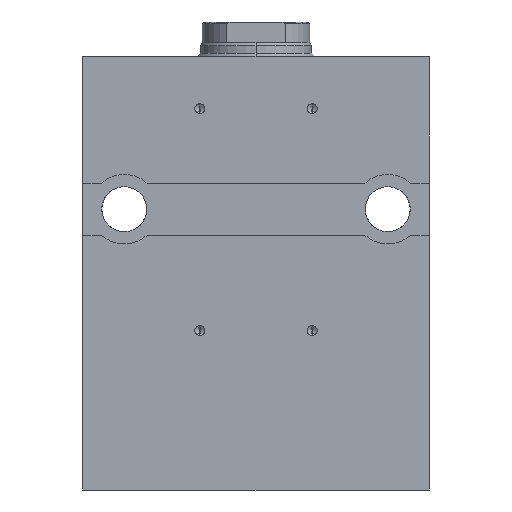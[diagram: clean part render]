
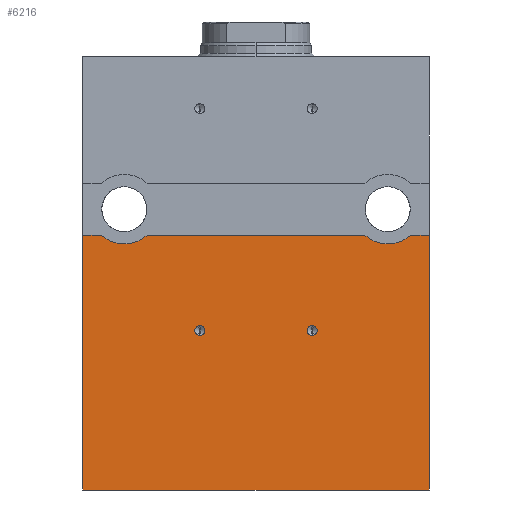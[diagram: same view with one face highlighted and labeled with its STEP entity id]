
A CAD part, left-side view. The second image highlights one B-rep face of the part: STEP entity #6216.
In plain terms, the highlighted planar face has unit normal (-1, 0, 0).
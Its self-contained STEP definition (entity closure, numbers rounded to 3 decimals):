
#13 = DIRECTION ( 'NONE',  ( 0., 0., 1. ) ) ;
#43 = AXIS2_PLACEMENT_3D ( 'NONE', #2816, #1256, #2257 ) ;
#53 = DIRECTION ( 'NONE',  ( 0., -1., 0. ) ) ;
#76 = PLANE ( 'NONE',  #436 ) ;
#84 = CARTESIAN_POINT ( 'NONE',  ( -37.5, 50., -61.5 ) ) ;
#121 = DIRECTION ( 'NONE',  ( -1., 0., 0. ) ) ;
#143 = VERTEX_POINT ( 'NONE', #2180 ) ;
#184 = CARTESIAN_POINT ( 'NONE',  ( -37.5, -50., -135. ) ) ;
#271 = ORIENTED_EDGE ( 'NONE', *, *, #1788, .T. ) ;
#362 = VECTOR ( 'NONE', #4099, 1000. ) ;
#385 = VECTOR ( 'NONE', #1639, 1000. ) ;
#436 = AXIS2_PLACEMENT_3D ( 'NONE', #4231, #2210, #4298 ) ;
#521 = AXIS2_PLACEMENT_3D ( 'NONE', #3142, #5266, #13 ) ;
#557 = DIRECTION ( 'NONE',  ( -1., 0., 0. ) ) ;
#565 = LINE ( 'NONE', #2677, #4065 ) ;
#599 = CARTESIAN_POINT ( 'NONE',  ( -37.5, 16.2, -89. ) ) ;
#629 = DIRECTION ( 'NONE',  ( 0., 0., 1. ) ) ;
#685 = ORIENTED_EDGE ( 'NONE', *, *, #1133, .T. ) ;
#708 = VERTEX_POINT ( 'NONE', #1517 ) ;
#720 = ORIENTED_EDGE ( 'NONE', *, *, #2670, .T. ) ;
#729 = EDGE_CURVE ( 'NONE', #5110, #3337, #2954, .T. ) ;
#856 = CARTESIAN_POINT ( 'NONE',  ( -37.5, -38., -54. ) ) ;
#858 = CARTESIAN_POINT ( 'NONE',  ( -37.5, -50., -135. ) ) ;
#1042 = DIRECTION ( 'NONE',  ( 0., -1., 0. ) ) ;
#1060 = EDGE_CURVE ( 'NONE', #3337, #5110, #3962, .T. ) ;
#1063 = CARTESIAN_POINT ( 'NONE',  ( -37.5, -16.2, -89. ) ) ;
#1133 = EDGE_CURVE ( 'NONE', #708, #6457, #565, .T. ) ;
#1142 = CARTESIAN_POINT ( 'NONE',  ( -37.5, 50., -61.5 ) ) ;
#1191 = VECTOR ( 'NONE', #1042, 1000. ) ;
#1193 = EDGE_LOOP ( 'NONE', ( #2819, #1239 ) ) ;
#1214 = VERTEX_POINT ( 'NONE', #1844 ) ;
#1239 = ORIENTED_EDGE ( 'NONE', *, *, #3250, .F. ) ;
#1256 = DIRECTION ( 'NONE',  ( -1., 0., 0. ) ) ;
#1463 = DIRECTION ( 'NONE',  ( 0., 0., 1. ) ) ;
#1488 = EDGE_CURVE ( 'NONE', #143, #5305, #5844, .T. ) ;
#1517 = CARTESIAN_POINT ( 'NONE',  ( -37.5, 50., -135. ) ) ;
#1639 = DIRECTION ( 'NONE',  ( 0., -1., 0. ) ) ;
#1682 = LINE ( 'NONE', #3191, #1191 ) ;
#1705 = EDGE_LOOP ( 'NONE', ( #3594, #4152 ) ) ;
#1788 = EDGE_CURVE ( 'NONE', #6457, #4542, #5149, .T. ) ;
#1844 = CARTESIAN_POINT ( 'NONE',  ( -37.5, -31.386, -61.5 ) ) ;
#2007 = DIRECTION ( 'NONE',  ( 1., 0., 0. ) ) ;
#2031 = EDGE_CURVE ( 'NONE', #5040, #6700, #6014, .T. ) ;
#2033 = CARTESIAN_POINT ( 'NONE',  ( -37.5, 16.2, -90.425 ) ) ;
#2141 = CARTESIAN_POINT ( 'NONE',  ( -37.5, -16.2, -90.425 ) ) ;
#2150 = CIRCLE ( 'NONE', #5710, 10. ) ;
#2180 = CARTESIAN_POINT ( 'NONE',  ( -37.5, 31.386, -61.5 ) ) ;
#2210 = DIRECTION ( 'NONE',  ( -1., 0., 0. ) ) ;
#2257 = DIRECTION ( 'NONE',  ( 0., 0., 1. ) ) ;
#2446 = CARTESIAN_POINT ( 'NONE',  ( -37.5, -50., -61.5 ) ) ;
#2476 = DIRECTION ( 'NONE',  ( 1., 0., 0. ) ) ;
#2584 = ORIENTED_EDGE ( 'NONE', *, *, #4749, .F. ) ;
#2626 = ORIENTED_EDGE ( 'NONE', *, *, #2745, .F. ) ;
#2668 = DIRECTION ( 'NONE',  ( 0., 0., 1. ) ) ;
#2670 = EDGE_CURVE ( 'NONE', #3783, #1214, #2150, .T. ) ;
#2677 = CARTESIAN_POINT ( 'NONE',  ( -37.5, 50., -135. ) ) ;
#2745 = EDGE_CURVE ( 'NONE', #143, #1214, #5775, .T. ) ;
#2816 = CARTESIAN_POINT ( 'NONE',  ( -37.5, -16.2, -89. ) ) ;
#2819 = ORIENTED_EDGE ( 'NONE', *, *, #2031, .F. ) ;
#2829 = CARTESIAN_POINT ( 'NONE',  ( -37.5, 44.614, -61.5 ) ) ;
#2880 = VERTEX_POINT ( 'NONE', #1142 ) ;
#2954 = CIRCLE ( 'NONE', #521, 1.425 ) ;
#2963 = DIRECTION ( 'NONE',  ( 0., 0., -1. ) ) ;
#2971 = EDGE_LOOP ( 'NONE', ( #4178, #720, #2626, #6019, #2584, #3680, #685, #271 ) ) ;
#2995 = LINE ( 'NONE', #5108, #362 ) ;
#3070 = CARTESIAN_POINT ( 'NONE',  ( -37.5, -16.2, -87.575 ) ) ;
#3113 = FACE_OUTER_BOUND ( 'NONE', #2971, .T. ) ;
#3122 = DIRECTION ( 'NONE',  ( 0., -1., 0. ) ) ;
#3142 = CARTESIAN_POINT ( 'NONE',  ( -37.5, 16.2, -89. ) ) ;
#3175 = FACE_BOUND ( 'NONE', #1705, .T. ) ;
#3184 = CIRCLE ( 'NONE', #5413, 1.425 ) ;
#3191 = CARTESIAN_POINT ( 'NONE',  ( -37.5, 50., -61.5 ) ) ;
#3250 = EDGE_CURVE ( 'NONE', #6700, #5040, #3184, .T. ) ;
#3337 = VERTEX_POINT ( 'NONE', #5312 ) ;
#3346 = EDGE_CURVE ( 'NONE', #3783, #4542, #1682, .T. ) ;
#3526 = AXIS2_PLACEMENT_3D ( 'NONE', #6764, #2007, #5132 ) ;
#3594 = ORIENTED_EDGE ( 'NONE', *, *, #1060, .F. ) ;
#3652 = EDGE_CURVE ( 'NONE', #708, #2880, #2995, .T. ) ;
#3680 = ORIENTED_EDGE ( 'NONE', *, *, #3652, .F. ) ;
#3743 = FACE_BOUND ( 'NONE', #1193, .T. ) ;
#3783 = VERTEX_POINT ( 'NONE', #5303 ) ;
#3841 = VECTOR ( 'NONE', #1463, 1000. ) ;
#3962 = CIRCLE ( 'NONE', #5400, 1.425 ) ;
#4065 = VECTOR ( 'NONE', #53, 1000. ) ;
#4099 = DIRECTION ( 'NONE',  ( 0., 0., 1. ) ) ;
#4152 = ORIENTED_EDGE ( 'NONE', *, *, #729, .F. ) ;
#4178 = ORIENTED_EDGE ( 'NONE', *, *, #3346, .F. ) ;
#4231 = CARTESIAN_POINT ( 'NONE',  ( -37.5, 50., -135. ) ) ;
#4298 = DIRECTION ( 'NONE',  ( 0., 0., 1. ) ) ;
#4542 = VERTEX_POINT ( 'NONE', #2446 ) ;
#4749 = EDGE_CURVE ( 'NONE', #2880, #5305, #5869, .T. ) ;
#5040 = VERTEX_POINT ( 'NONE', #3070 ) ;
#5108 = CARTESIAN_POINT ( 'NONE',  ( -37.5, 50., -135. ) ) ;
#5110 = VERTEX_POINT ( 'NONE', #2033 ) ;
#5132 = DIRECTION ( 'NONE',  ( 0., 0., -1. ) ) ;
#5149 = LINE ( 'NONE', #858, #3841 ) ;
#5266 = DIRECTION ( 'NONE',  ( -1., 0., 0. ) ) ;
#5303 = CARTESIAN_POINT ( 'NONE',  ( -37.5, -44.614, -61.5 ) ) ;
#5305 = VERTEX_POINT ( 'NONE', #2829 ) ;
#5312 = CARTESIAN_POINT ( 'NONE',  ( -37.5, 16.2, -87.575 ) ) ;
#5400 = AXIS2_PLACEMENT_3D ( 'NONE', #599, #121, #629 ) ;
#5413 = AXIS2_PLACEMENT_3D ( 'NONE', #1063, #557, #2668 ) ;
#5710 = AXIS2_PLACEMENT_3D ( 'NONE', #856, #2476, #2963 ) ;
#5775 = LINE ( 'NONE', #5807, #6812 ) ;
#5807 = CARTESIAN_POINT ( 'NONE',  ( -37.5, 50., -61.5 ) ) ;
#5844 = CIRCLE ( 'NONE', #3526, 10. ) ;
#5869 = LINE ( 'NONE', #84, #385 ) ;
#6014 = CIRCLE ( 'NONE', #43, 1.425 ) ;
#6019 = ORIENTED_EDGE ( 'NONE', *, *, #1488, .T. ) ;
#6216 = ADVANCED_FACE ( 'NONE', ( #3743, #3175, #3113 ), #76, .T. ) ;
#6457 = VERTEX_POINT ( 'NONE', #184 ) ;
#6700 = VERTEX_POINT ( 'NONE', #2141 ) ;
#6764 = CARTESIAN_POINT ( 'NONE',  ( -37.5, 38., -54. ) ) ;
#6812 = VECTOR ( 'NONE', #3122, 1000. ) ;
